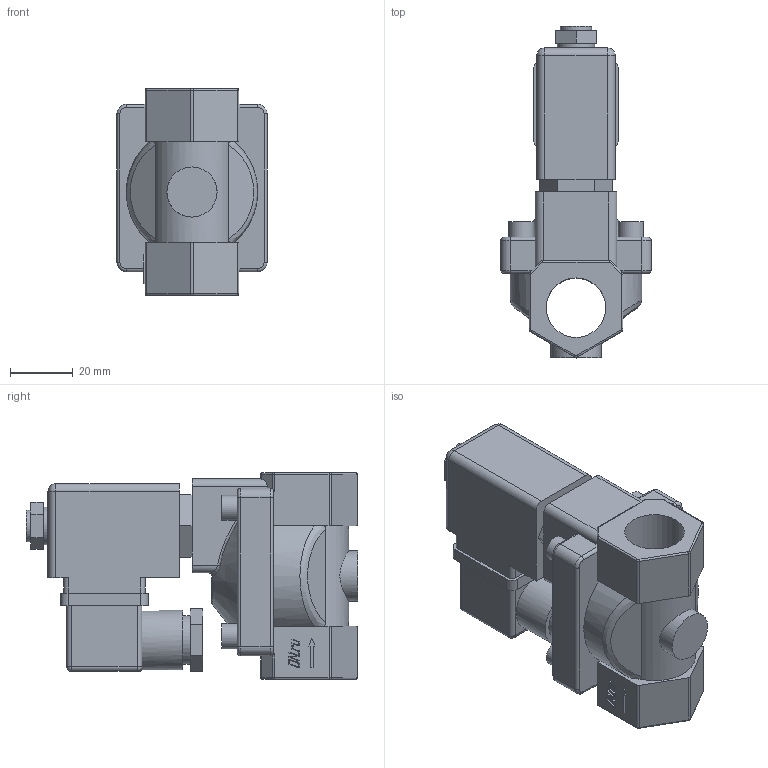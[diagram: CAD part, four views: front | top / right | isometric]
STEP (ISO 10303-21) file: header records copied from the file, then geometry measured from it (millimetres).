
FILE_DESCRIPTION(('STEP AP242'), '1');
FILE_NAME('VS431-VT-NC-220VAC 1-2 孰囡囗 尻蝠铎嚆龛蝽 DN.ru 捏15 畜16', '', ('UNSPECIFIED'), ('UNSPECIFIED'), 'C3D Converter', 'C3D Toolkit', '');
FILE_SCHEMA(('AP242_MANAGED_MODEL_BASED_3D_ENGINEERING_MIM_LF { 1 0 10303 442 1 1 4 }'));
Length unit declared in the file: millimetre
Products named in the file (1): VS431-VT-NC-220VAC 1-2
Bounding box: 48 x 106 x 66 mm (x, y, z)
Volume: 131020.6 mm3; surface area: 28011.9 mm2
Topology: 1 solids, 1 shells, 318 faces, 802 edges, 501 vertices
Faces by surface type: plane 149, cylinder 83, extrusion 40, torus 23, bspline 16, sphere 6, cone 1
Full cylindrical faces by diameter (mm): 8 x4, 10 x1, 12 x1, 15.5 x1, 16 x1, 19 x2
Entity records: 15870 total; most frequent: CARTESIAN_POINT 5895, ORIENTED_EDGE 1564, DIRECTION 1394, EDGE_CURVE 782, VECTOR 504, VERTEX_POINT 501, LINE 464, AXIS2_PLACEMENT_3D 445
